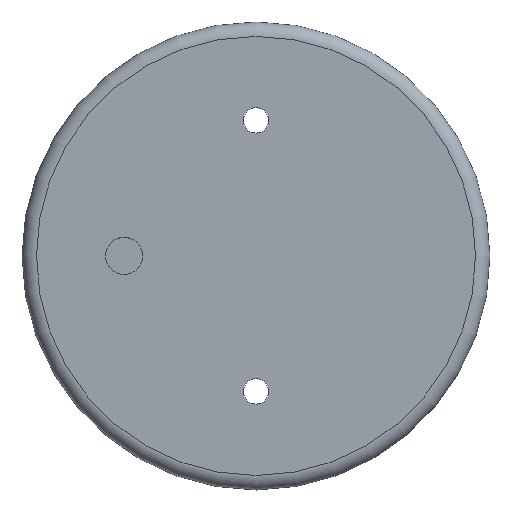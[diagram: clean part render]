
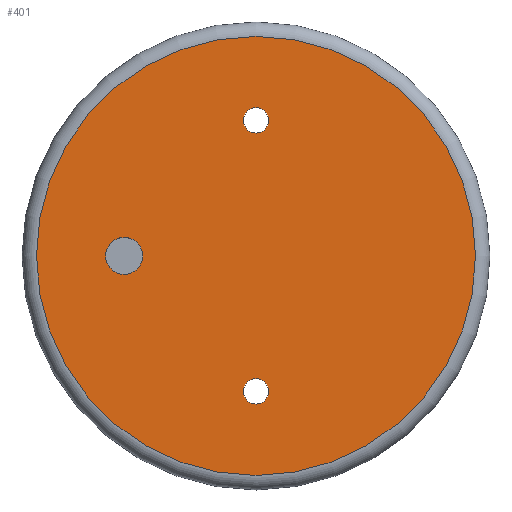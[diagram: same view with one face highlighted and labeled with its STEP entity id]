
A CAD part, top view. The second image highlights one B-rep face of the part: STEP entity #401.
In plain terms, the highlighted planar face has unit normal (0, 0, 1).
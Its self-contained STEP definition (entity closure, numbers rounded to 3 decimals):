
#157 = CYLINDRICAL_SURFACE('',#158,7.);
#158 = AXIS2_PLACEMENT_3D('',#159,#160,#161);
#159 = CARTESIAN_POINT('',(0.,-75.,1.));
#160 = DIRECTION('',(0.,0.,-1.));
#161 = DIRECTION('',(-1.,0.,-0.));
#188 = CYLINDRICAL_SURFACE('',#189,7.);
#189 = AXIS2_PLACEMENT_3D('',#190,#191,#192);
#190 = CARTESIAN_POINT('',(0.,75.,1.));
#191 = DIRECTION('',(0.,0.,-1.));
#192 = DIRECTION('',(-1.,0.,-0.));
#267 = VERTEX_POINT('',#268);
#268 = CARTESIAN_POINT('',(-7.,-75.,0.));
#289 = EDGE_CURVE('',#267,#267,#290,.T.);
#290 = SURFACE_CURVE('',#291,(#296,#303),.PCURVE_S1.);
#291 = CIRCLE('',#292,7.);
#292 = AXIS2_PLACEMENT_3D('',#293,#294,#295);
#293 = CARTESIAN_POINT('',(0.,-75.,0.));
#294 = DIRECTION('',(0.,0.,-1.));
#295 = DIRECTION('',(-1.,0.,-0.));
#296 = PCURVE('',#157,#297);
#297 = DEFINITIONAL_REPRESENTATION('',(#298),#302);
#298 = LINE('',#299,#300);
#299 = CARTESIAN_POINT('',(0.,1.));
#300 = VECTOR('',#301,1.);
#301 = DIRECTION('',(1.,0.));
#302 = ( GEOMETRIC_REPRESENTATION_CONTEXT(2) 
PARAMETRIC_REPRESENTATION_CONTEXT() REPRESENTATION_CONTEXT('2D SPACE',''
  ) );
#303 = PCURVE('',#304,#309);
#304 = PLANE('',#305);
#305 = AXIS2_PLACEMENT_3D('',#306,#307,#308);
#306 = CARTESIAN_POINT('',(0.,0.,0.));
#307 = DIRECTION('',(0.,0.,-1.));
#308 = DIRECTION('',(-1.,0.,-0.));
#309 = DEFINITIONAL_REPRESENTATION('',(#310),#314);
#310 = CIRCLE('',#311,7.);
#311 = AXIS2_PLACEMENT_2D('',#312,#313);
#312 = CARTESIAN_POINT('',(0.,-75.));
#313 = DIRECTION('',(1.,0.));
#314 = ( GEOMETRIC_REPRESENTATION_CONTEXT(2) 
PARAMETRIC_REPRESENTATION_CONTEXT() REPRESENTATION_CONTEXT('2D SPACE',''
  ) );
#322 = VERTEX_POINT('',#323);
#323 = CARTESIAN_POINT('',(-7.,75.,0.));
#344 = EDGE_CURVE('',#322,#322,#345,.T.);
#345 = SURFACE_CURVE('',#346,(#351,#358),.PCURVE_S1.);
#346 = CIRCLE('',#347,7.);
#347 = AXIS2_PLACEMENT_3D('',#348,#349,#350);
#348 = CARTESIAN_POINT('',(0.,75.,0.));
#349 = DIRECTION('',(0.,0.,-1.));
#350 = DIRECTION('',(-1.,0.,-0.));
#351 = PCURVE('',#188,#352);
#352 = DEFINITIONAL_REPRESENTATION('',(#353),#357);
#353 = LINE('',#354,#355);
#354 = CARTESIAN_POINT('',(0.,1.));
#355 = VECTOR('',#356,1.);
#356 = DIRECTION('',(1.,0.));
#357 = ( GEOMETRIC_REPRESENTATION_CONTEXT(2) 
PARAMETRIC_REPRESENTATION_CONTEXT() REPRESENTATION_CONTEXT('2D SPACE',''
  ) );
#358 = PCURVE('',#304,#359);
#359 = DEFINITIONAL_REPRESENTATION('',(#360),#364);
#360 = CIRCLE('',#361,7.);
#361 = AXIS2_PLACEMENT_2D('',#362,#363);
#362 = CARTESIAN_POINT('',(0.,75.));
#363 = DIRECTION('',(1.,0.));
#364 = ( GEOMETRIC_REPRESENTATION_CONTEXT(2) 
PARAMETRIC_REPRESENTATION_CONTEXT() REPRESENTATION_CONTEXT('2D SPACE',''
  ) );
#401 = ADVANCED_FACE('',(#402,#433,#436,#439),#304,.F.);
#402 = FACE_BOUND('',#403,.F.);
#403 = EDGE_LOOP('',(#404));
#404 = ORIENTED_EDGE('',*,*,#405,.T.);
#405 = EDGE_CURVE('',#406,#406,#408,.T.);
#406 = VERTEX_POINT('',#407);
#407 = CARTESIAN_POINT('',(-121.5,0.,0.));
#408 = SURFACE_CURVE('',#409,(#414,#421),.PCURVE_S1.);
#409 = CIRCLE('',#410,121.5);
#410 = AXIS2_PLACEMENT_3D('',#411,#412,#413);
#411 = CARTESIAN_POINT('',(0.,0.,0.));
#412 = DIRECTION('',(0.,0.,-1.));
#413 = DIRECTION('',(-1.,0.,0.));
#414 = PCURVE('',#304,#415);
#415 = DEFINITIONAL_REPRESENTATION('',(#416),#420);
#416 = CIRCLE('',#417,121.5);
#417 = AXIS2_PLACEMENT_2D('',#418,#419);
#418 = CARTESIAN_POINT('',(0.,0.));
#419 = DIRECTION('',(1.,0.));
#420 = ( GEOMETRIC_REPRESENTATION_CONTEXT(2) 
PARAMETRIC_REPRESENTATION_CONTEXT() REPRESENTATION_CONTEXT('2D SPACE',''
  ) );
#421 = PCURVE('',#422,#427);
#422 = TOROIDAL_SURFACE('',#423,121.5,8.);
#423 = AXIS2_PLACEMENT_3D('',#424,#425,#426);
#424 = CARTESIAN_POINT('',(0.,0.,-8.));
#425 = DIRECTION('',(-0.,-0.,1.));
#426 = DIRECTION('',(-1.,0.,0.));
#427 = DEFINITIONAL_REPRESENTATION('',(#428),#432);
#428 = LINE('',#429,#430);
#429 = CARTESIAN_POINT('',(-0.,1.571));
#430 = VECTOR('',#431,1.);
#431 = DIRECTION('',(-1.,0.));
#432 = ( GEOMETRIC_REPRESENTATION_CONTEXT(2) 
PARAMETRIC_REPRESENTATION_CONTEXT() REPRESENTATION_CONTEXT('2D SPACE',''
  ) );
#433 = FACE_BOUND('',#434,.F.);
#434 = EDGE_LOOP('',(#435));
#435 = ORIENTED_EDGE('',*,*,#289,.F.);
#436 = FACE_BOUND('',#437,.F.);
#437 = EDGE_LOOP('',(#438));
#438 = ORIENTED_EDGE('',*,*,#344,.F.);
#439 = FACE_BOUND('',#440,.F.);
#440 = EDGE_LOOP('',(#441));
#441 = ORIENTED_EDGE('',*,*,#442,.F.);
#442 = EDGE_CURVE('',#443,#443,#445,.T.);
#443 = VERTEX_POINT('',#444);
#444 = CARTESIAN_POINT('',(-83.25,0.,0.));
#445 = SURFACE_CURVE('',#446,(#451,#458),.PCURVE_S1.);
#446 = CIRCLE('',#447,10.25);
#447 = AXIS2_PLACEMENT_3D('',#448,#449,#450);
#448 = CARTESIAN_POINT('',(-73.,0.,0.));
#449 = DIRECTION('',(0.,0.,-1.));
#450 = DIRECTION('',(-1.,0.,-0.));
#451 = PCURVE('',#304,#452);
#452 = DEFINITIONAL_REPRESENTATION('',(#453),#457);
#453 = CIRCLE('',#454,10.25);
#454 = AXIS2_PLACEMENT_2D('',#455,#456);
#455 = CARTESIAN_POINT('',(73.,0.));
#456 = DIRECTION('',(1.,0.));
#457 = ( GEOMETRIC_REPRESENTATION_CONTEXT(2) 
PARAMETRIC_REPRESENTATION_CONTEXT() REPRESENTATION_CONTEXT('2D SPACE',''
  ) );
#458 = PCURVE('',#459,#464);
#459 = CYLINDRICAL_SURFACE('',#460,10.25);
#460 = AXIS2_PLACEMENT_3D('',#461,#462,#463);
#461 = CARTESIAN_POINT('',(-73.,0.,1.));
#462 = DIRECTION('',(0.,0.,-1.));
#463 = DIRECTION('',(-1.,0.,-0.));
#464 = DEFINITIONAL_REPRESENTATION('',(#465),#469);
#465 = LINE('',#466,#467);
#466 = CARTESIAN_POINT('',(0.,1.));
#467 = VECTOR('',#468,1.);
#468 = DIRECTION('',(1.,0.));
#469 = ( GEOMETRIC_REPRESENTATION_CONTEXT(2) 
PARAMETRIC_REPRESENTATION_CONTEXT() REPRESENTATION_CONTEXT('2D SPACE',''
  ) );
